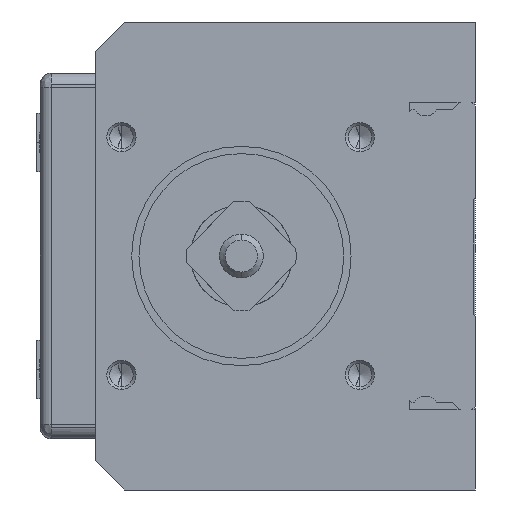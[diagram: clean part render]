
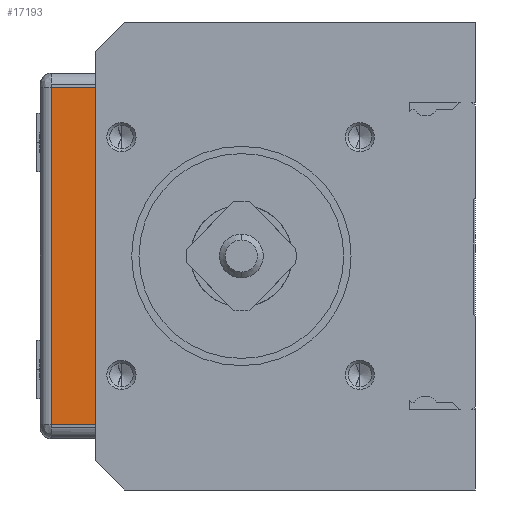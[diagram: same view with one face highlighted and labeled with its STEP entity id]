
A CAD part, left-side view. The second image highlights one B-rep face of the part: STEP entity #17193.
In plain terms, the highlighted planar face has unit normal (-1, 0, 0).
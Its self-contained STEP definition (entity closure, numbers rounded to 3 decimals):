
#3475 = CARTESIAN_POINT ( 'NONE',  ( 348., 58., 23. ) ) ;
#3476 = DIRECTION ( 'NONE',  ( 0., 1., 0. ) ) ;
#3480 = CARTESIAN_POINT ( 'NONE',  ( 348., 58., 23. ) ) ;
#3481 = DIRECTION ( 'NONE',  ( 0., 0., 1. ) ) ;
#3482 = CARTESIAN_POINT ( 'NONE',  ( 348., 54.25, -23. ) ) ;
#3483 = DIRECTION ( 'NONE',  ( 0., 1., 0. ) ) ;
#3484 = CARTESIAN_POINT ( 'NONE',  ( 348., 50.5, 23. ) ) ;
#3485 = DIRECTION ( 'NONE',  ( 0., 0., -1. ) ) ;
#5685 = VERTEX_POINT ( 'NONE', #9572 ) ;
#5706 = VERTEX_POINT ( 'NONE', #9545 ) ;
#5742 = VERTEX_POINT ( 'NONE', #9499 ) ;
#5745 = VERTEX_POINT ( 'NONE', #9495 ) ;
#9358 = EDGE_LOOP ( 'NONE', ( #14971, #14969, #14965, #14963 ) ) ;
#9495 = CARTESIAN_POINT ( 'NONE',  ( 348., 50.5, -23. ) ) ;
#9499 = CARTESIAN_POINT ( 'NONE',  ( 348., 50.5, 23. ) ) ;
#9545 = CARTESIAN_POINT ( 'NONE',  ( 348., 58., -23. ) ) ;
#9572 = CARTESIAN_POINT ( 'NONE',  ( 348., 58., 23. ) ) ;
#11672 = DIRECTION ( 'NONE',  ( 0., 0., 1. ) ) ;
#11673 = DIRECTION ( 'NONE',  ( -1., 0., 0. ) ) ;
#11674 = CARTESIAN_POINT ( 'NONE',  ( 348., 58., 23. ) ) ;
#11675 = PLANE ( 'NONE',  #21528 ) ;
#14963 = ORIENTED_EDGE ( 'NONE', *, *, #20800, .F. ) ;
#14965 = ORIENTED_EDGE ( 'NONE', *, *, #20799, .F. ) ;
#14969 = ORIENTED_EDGE ( 'NONE', *, *, #20798, .F. ) ;
#14971 = ORIENTED_EDGE ( 'NONE', *, *, #20796, .T. ) ;
#16689 = FACE_OUTER_BOUND ( 'NONE', #9358, .T. ) ;
#17193 = ADVANCED_FACE ( 'NONE', ( #16689 ), #11675, .T. ) ;
#18479 = LINE ( 'NONE', #3475, #18480 ) ;
#18480 = VECTOR ( 'NONE', #3476, 1000. ) ;
#18481 = LINE ( 'NONE', #3480, #18483 ) ;
#18483 = VECTOR ( 'NONE', #3481, 1000. ) ;
#18484 = LINE ( 'NONE', #3482, #18485 ) ;
#18485 = VECTOR ( 'NONE', #3483, 1000. ) ;
#18486 = LINE ( 'NONE', #3484, #18487 ) ;
#18487 = VECTOR ( 'NONE', #3485, 1000. ) ;
#20796 = EDGE_CURVE ( 'NONE', #5742, #5685, #18479, .T. ) ;
#20798 = EDGE_CURVE ( 'NONE', #5706, #5685, #18481, .T. ) ;
#20799 = EDGE_CURVE ( 'NONE', #5745, #5706, #18484, .T. ) ;
#20800 = EDGE_CURVE ( 'NONE', #5742, #5745, #18486, .T. ) ;
#21528 = AXIS2_PLACEMENT_3D ( 'NONE', #11674, #11673, #11672 ) ;
